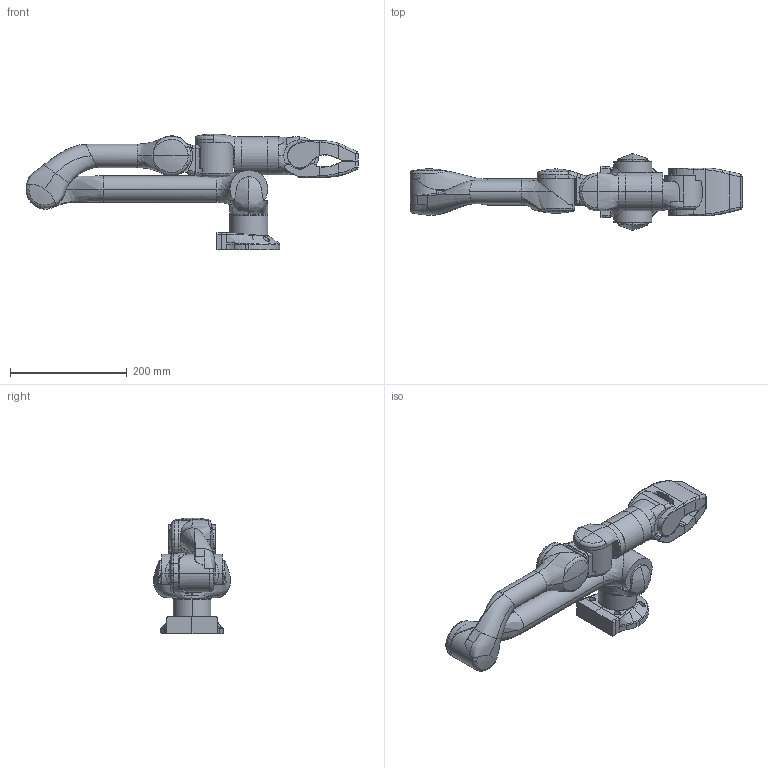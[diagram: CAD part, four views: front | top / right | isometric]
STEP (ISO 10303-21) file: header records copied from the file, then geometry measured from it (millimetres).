
FILE_DESCRIPTION (( 'STEP AP214' ), '1' );
FILE_NAME ('UArm-V3.6-01-simplified-with gripper.STEP', '2022-06-06T08:07:38', ( '' ), ( '' ), 'SwSTEP 2.0', 'SolidWorks 2018', '' );
FILE_SCHEMA (( 'AUTOMOTIVE_DESIGN' ));
Length unit declared in the file: millimetre
Products named in the file (10): UArm-V3.6-4-Base-simplified; UArm-V3.6-01-Wrist-front-simplified; UArm-V3.6-3-01-Graipper-Fixed jaw assembly-simplified; UArm-V3.6-01-simplified-with gripper; UArm-V3.6-3-01-Gripper-Movable finger-simplified; UArm-V3.6-01-End joint-simplified; UArm-V3.6-01-Wrist-back-simplified; UArm-V3.6-01-Secondary arm-simplified; UArm-V3.6-01-Main arm-simplified; UArm-V3.6-01-Shoulder-simplified
Assembly tree (9 placements, depth 2):
  UArm-V3.6-01-simplified-with gripper
    UArm-V3.6-4-Base-simplified
    UArm-V3.6-01-Shoulder-simplified
    UArm-V3.6-01-Main arm-simplified
    UArm-V3.6-01-Secondary arm-simplified
    UArm-V3.6-01-Wrist-back-simplified
    UArm-V3.6-01-Wrist-front-simplified
    UArm-V3.6-01-End joint-simplified
    UArm-V3.6-3-01-Graipper-Fixed jaw assembly-simplified
    UArm-V3.6-3-01-Gripper-Movable finger-simplified
Bounding box: 569.7 x 131.78 x 199 mm (x, y, z)
Volume: 2926907.7 mm3; surface area: 367673.3 mm2
Topology: 9 solids, 9 shells, 545 faces, 1401 edges, 878 vertices
Faces by surface type: bspline 222, cylinder 167, plane 114, torus 36, sphere 6
Entity records: 153683 total; most frequent: CARTESIAN_POINT 139310, ORIENTED_EDGE 2784, DIRECTION 1653, EDGE_CURVE 1392, VERTEX_POINT 878, B_SPLINE_CURVE_WITH_KNOTS 711, AXIS2_PLACEMENT_3D 688, EDGE_LOOP 570
